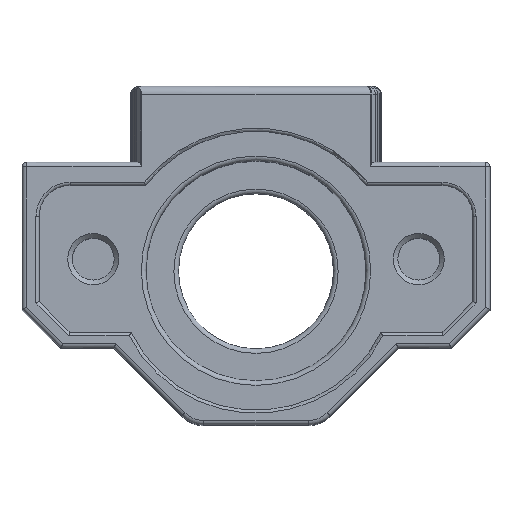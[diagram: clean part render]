
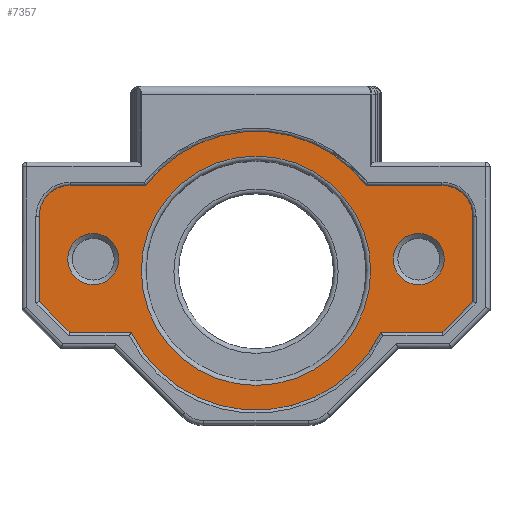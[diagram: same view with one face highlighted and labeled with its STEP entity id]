
A CAD part, top view. The second image highlights one B-rep face of the part: STEP entity #7357.
In plain terms, the highlighted planar face has unit normal (0, 0, 1).
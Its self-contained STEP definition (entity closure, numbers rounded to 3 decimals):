
#28=FACE_BOUND('',#2459,.T.);
#29=FACE_BOUND('',#2460,.T.);
#30=FACE_BOUND('',#2461,.T.);
#187=LINE('',#10531,#944);
#190=LINE('',#10539,#947);
#192=LINE('',#10543,#949);
#194=LINE('',#10547,#951);
#210=LINE('',#10591,#967);
#211=LINE('',#10593,#968);
#212=LINE('',#10595,#969);
#213=LINE('',#10598,#970);
#944=VECTOR('',#8432,10.);
#947=VECTOR('',#8441,10.);
#949=VECTOR('',#8445,10.);
#951=VECTOR('',#8449,10.);
#967=VECTOR('',#8481,10.);
#968=VECTOR('',#8482,10.);
#969=VECTOR('',#8483,10.);
#970=VECTOR('',#8486,10.);
#1673=PLANE('',#7845);
#1913=CIRCLE('',#7832,9.);
#1914=CIRCLE('',#7835,2.);
#1917=CIRCLE('',#7843,1.65);
#1919=CIRCLE('',#7846,9.);
#1920=CIRCLE('',#7847,2.);
#1921=CIRCLE('',#7848,1.65);
#1922=CIRCLE('',#7849,7.4);
#1923=CIRCLE('',#7850,7.4);
#2025=FACE_OUTER_BOUND('',#2458,.T.);
#2458=EDGE_LOOP('',(#5169,#5170,#5171,#5172,#5173,#5174,#5175,#5176,#5177,
#5178,#5179,#5180));
#2459=EDGE_LOOP('',(#5181));
#2460=EDGE_LOOP('',(#5182,#5183));
#2461=EDGE_LOOP('',(#5184));
#3221=VERTEX_POINT('',#10523);
#3222=VERTEX_POINT('',#10525);
#3223=VERTEX_POINT('',#10529);
#3224=VERTEX_POINT('',#10533);
#3225=VERTEX_POINT('',#10537);
#3226=VERTEX_POINT('',#10541);
#3227=VERTEX_POINT('',#10545);
#3244=VERTEX_POINT('',#10582);
#3246=VERTEX_POINT('',#10588);
#3247=VERTEX_POINT('',#10590);
#3248=VERTEX_POINT('',#10592);
#3249=VERTEX_POINT('',#10594);
#3250=VERTEX_POINT('',#10596);
#3251=VERTEX_POINT('',#10599);
#3252=VERTEX_POINT('',#10601);
#3253=VERTEX_POINT('',#10602);
#3963=EDGE_CURVE('',#3221,#3222,#1913,.T.);
#3966=EDGE_CURVE('',#3223,#3221,#187,.T.);
#3968=EDGE_CURVE('',#3224,#3223,#1914,.T.);
#3970=EDGE_CURVE('',#3225,#3224,#190,.T.);
#3972=EDGE_CURVE('',#3226,#3225,#192,.T.);
#3974=EDGE_CURVE('',#3227,#3226,#194,.T.);
#3991=EDGE_CURVE('',#3244,#3244,#1917,.T.);
#3994=EDGE_CURVE('',#3246,#3227,#1919,.T.);
#3995=EDGE_CURVE('',#3247,#3246,#210,.T.);
#3996=EDGE_CURVE('',#3248,#3247,#211,.T.);
#3997=EDGE_CURVE('',#3249,#3248,#212,.T.);
#3998=EDGE_CURVE('',#3250,#3249,#1920,.T.);
#3999=EDGE_CURVE('',#3222,#3250,#213,.T.);
#4000=EDGE_CURVE('',#3251,#3251,#1921,.T.);
#4001=EDGE_CURVE('',#3252,#3253,#1922,.T.);
#4002=EDGE_CURVE('',#3253,#3252,#1923,.T.);
#5169=ORIENTED_EDGE('',*,*,#3972,.F.);
#5170=ORIENTED_EDGE('',*,*,#3974,.F.);
#5171=ORIENTED_EDGE('',*,*,#3994,.F.);
#5172=ORIENTED_EDGE('',*,*,#3995,.F.);
#5173=ORIENTED_EDGE('',*,*,#3996,.F.);
#5174=ORIENTED_EDGE('',*,*,#3997,.F.);
#5175=ORIENTED_EDGE('',*,*,#3998,.F.);
#5176=ORIENTED_EDGE('',*,*,#3999,.F.);
#5177=ORIENTED_EDGE('',*,*,#3963,.F.);
#5178=ORIENTED_EDGE('',*,*,#3966,.F.);
#5179=ORIENTED_EDGE('',*,*,#3968,.F.);
#5180=ORIENTED_EDGE('',*,*,#3970,.F.);
#5181=ORIENTED_EDGE('',*,*,#4000,.F.);
#5182=ORIENTED_EDGE('',*,*,#4001,.F.);
#5183=ORIENTED_EDGE('',*,*,#4002,.F.);
#5184=ORIENTED_EDGE('',*,*,#3991,.F.);
#7357=ADVANCED_FACE('',(#2025,#28,#29,#30),#1673,.T.);
#7832=AXIS2_PLACEMENT_3D('',#10526,#8426,#8427);
#7835=AXIS2_PLACEMENT_3D('',#10535,#8436,#8437);
#7843=AXIS2_PLACEMENT_3D('',#10583,#8472,#8473);
#7845=AXIS2_PLACEMENT_3D('',#10587,#8477,#8478);
#7846=AXIS2_PLACEMENT_3D('',#10589,#8479,#8480);
#7847=AXIS2_PLACEMENT_3D('',#10597,#8484,#8485);
#7848=AXIS2_PLACEMENT_3D('',#10600,#8487,#8488);
#7849=AXIS2_PLACEMENT_3D('',#10603,#8489,#8490);
#7850=AXIS2_PLACEMENT_3D('',#10604,#8491,#8492);
#8426=DIRECTION('center_axis',(0.,0.,-1.));
#8427=DIRECTION('ref_axis',(-0.792,-0.611,0.));
#8432=DIRECTION('',(1.,0.,0.));
#8436=DIRECTION('center_axis',(0.,0.,-1.));
#8437=DIRECTION('ref_axis',(0.,-1.,0.));
#8441=DIRECTION('',(0.,1.,0.));
#8445=DIRECTION('',(-0.707,0.707,0.));
#8449=DIRECTION('',(-1.,0.,0.));
#8472=DIRECTION('center_axis',(0.,0.,1.));
#8473=DIRECTION('ref_axis',(-1.,0.,0.));
#8477=DIRECTION('center_axis',(0.,0.,1.));
#8478=DIRECTION('ref_axis',(1.,0.,0.));
#8479=DIRECTION('center_axis',(0.,0.,-1.));
#8480=DIRECTION('ref_axis',(0.896,0.444,0.));
#8481=DIRECTION('',(-1.,0.,0.));
#8482=DIRECTION('',(-0.707,-0.707,0.));
#8483=DIRECTION('',(0.,-1.,0.));
#8484=DIRECTION('center_axis',(0.,0.,-1.));
#8485=DIRECTION('ref_axis',(-1.,0.,0.));
#8486=DIRECTION('',(1.,0.,0.));
#8487=DIRECTION('center_axis',(0.,0.,1.));
#8488=DIRECTION('ref_axis',(-1.,0.,0.));
#8489=DIRECTION('center_axis',(0.,0.,1.));
#8490=DIRECTION('ref_axis',(-1.,0.,0.));
#8491=DIRECTION('center_axis',(0.,0.,1.));
#8492=DIRECTION('ref_axis',(-1.,0.,0.));
#10523=CARTESIAN_POINT('',(-7.124,-6.4,10.));
#10525=CARTESIAN_POINT('',(7.124,-6.4,10.));
#10526=CARTESIAN_POINT('Origin',(0.,-11.9,10.));
#10529=CARTESIAN_POINT('',(-12.,-6.4,10.));
#10531=CARTESIAN_POINT('',(-12.,-6.4,10.));
#10533=CARTESIAN_POINT('',(-14.,-8.4,10.));
#10535=CARTESIAN_POINT('Origin',(-12.,-8.4,10.));
#10537=CARTESIAN_POINT('',(-14.,-13.9,10.));
#10539=CARTESIAN_POINT('',(-14.,-13.9,10.));
#10541=CARTESIAN_POINT('',(-12.,-15.9,10.));
#10543=CARTESIAN_POINT('',(-12.,-15.9,10.));
#10545=CARTESIAN_POINT('',(-8.062,-15.9,10.));
#10547=CARTESIAN_POINT('',(-8.062,-15.9,10.));
#10582=CARTESIAN_POINT('',(12.15,-11.15,10.));
#10583=CARTESIAN_POINT('Origin',(10.5,-11.15,10.));
#10587=CARTESIAN_POINT('Origin',(0.,-11.55,
10.));
#10588=CARTESIAN_POINT('',(8.062,-15.9,10.));
#10589=CARTESIAN_POINT('Origin',(0.,-11.9,10.));
#10590=CARTESIAN_POINT('',(12.,-15.9,10.));
#10591=CARTESIAN_POINT('',(12.,-15.9,10.));
#10592=CARTESIAN_POINT('',(14.,-13.9,10.));
#10593=CARTESIAN_POINT('',(14.,-13.9,10.));
#10594=CARTESIAN_POINT('',(14.,-8.4,10.));
#10595=CARTESIAN_POINT('',(14.,-8.4,10.));
#10596=CARTESIAN_POINT('',(12.,-6.4,10.));
#10597=CARTESIAN_POINT('Origin',(12.,-8.4,10.));
#10598=CARTESIAN_POINT('',(7.124,-6.4,10.));
#10599=CARTESIAN_POINT('',(-8.85,-11.15,10.));
#10600=CARTESIAN_POINT('Origin',(-10.5,-11.15,10.));
#10601=CARTESIAN_POINT('',(7.4,-11.9,10.));
#10602=CARTESIAN_POINT('',(-7.4,-11.9,10.));
#10603=CARTESIAN_POINT('Origin',(0.,-11.9,10.));
#10604=CARTESIAN_POINT('Origin',(0.,-11.9,10.));
